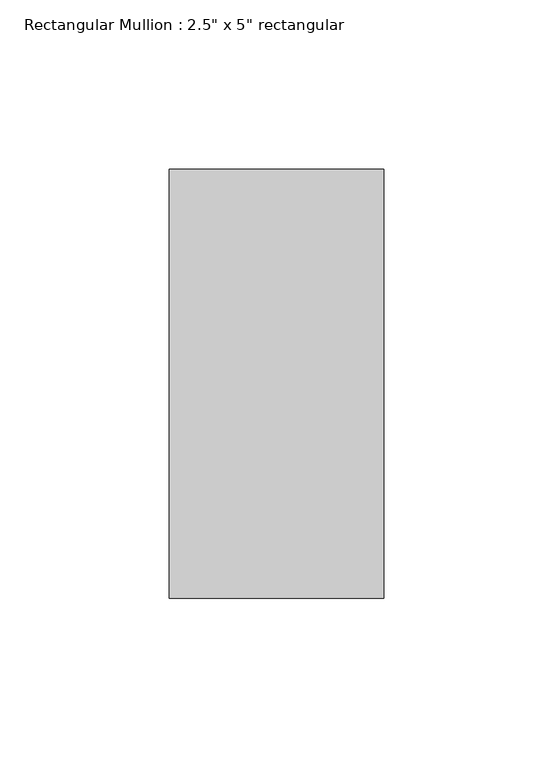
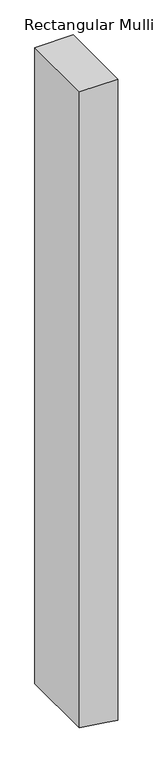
"""IFC4 building model written with IfcOpenShell, lengths in millimetres: member geometry."""

from ifc_helpers import new_model, si_unit, point, frame, frame_2d, origin, place, context, project, spatial, polyline, circle_curve, trimmed, segment, composite_curve, outline, extrude, source, transform, mapped, element, save


def member_5ea67813(model_context):
    return source(origin(), model_context, "Body", "SweptSolid", [
        extrude(outline(composite_curve([segment(polyline([(0.0, 31.75), (0.0, -31.75), (-1109.5974032, -31.75)]), True, "CONTINUOUS"), segment(trimmed(circle_curve(frame_2d((2743.2, 566.0571428)), 3898.9), [point((-1109.5974032, -31.75))], [point((-1115.7102112, 9.0713344))], False, "CARTESIAN"), True, "CONTINUOUS"), segment(trimmed(circle_curve(frame_2d((2743.2, 566.0571428)), 3898.9), [point((-1115.7102112, 9.0713344))], [point((-1118.9156232, 31.75))], False, "CARTESIAN"), True, "CONTINUOUS"), segment(polyline([(-1118.9156232, 31.75), (0.0, 31.75)]), True, "CONTINUOUS")], self_intersect=False)), frame((0.0, -63.5, 0.0), z_axis=(0.0, 1.0, 0.0), x_axis=(0.0, 0.0, 1.0)), (0.0, 0.0, 1.0), 127.0),
    ])


if __name__ == "__main__":
    model = new_model("IFC4")
    model_context = context("Model", 3, world=origin())
    ifc_project = project(units=[si_unit("LENGTHUNIT", "METRE", prefix="MILLI")], contexts=[model_context])
    site = spatial("IfcSite", under=ifc_project)
    building = spatial("IfcBuilding", under=site)
    placement = place(None, origin())
    member_shape = member_5ea67813(model_context)
    element("IfcMember", 1, ObjectType="Rectangular Mullion : 2.5\" x 5\" rectangular", at=placement, inside=building, context=model_context, shape_type="MappedRepresentation", body=[
        mapped(member_shape, transform((0.0, 0.0, 0.0), x_axis=(1.0, 0.0, 0.0), y_axis=(0.0, 1.0, 0.0), z_axis=(0.0, 0.0, 1.0))),
    ])
    save(model, "model.ifc")
